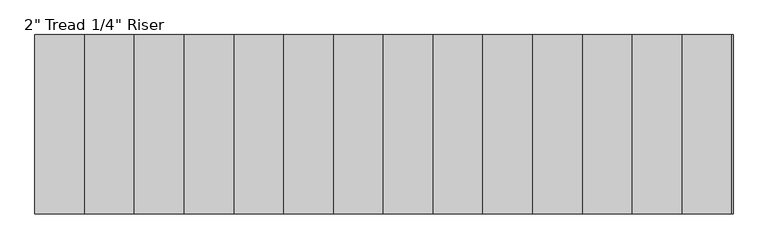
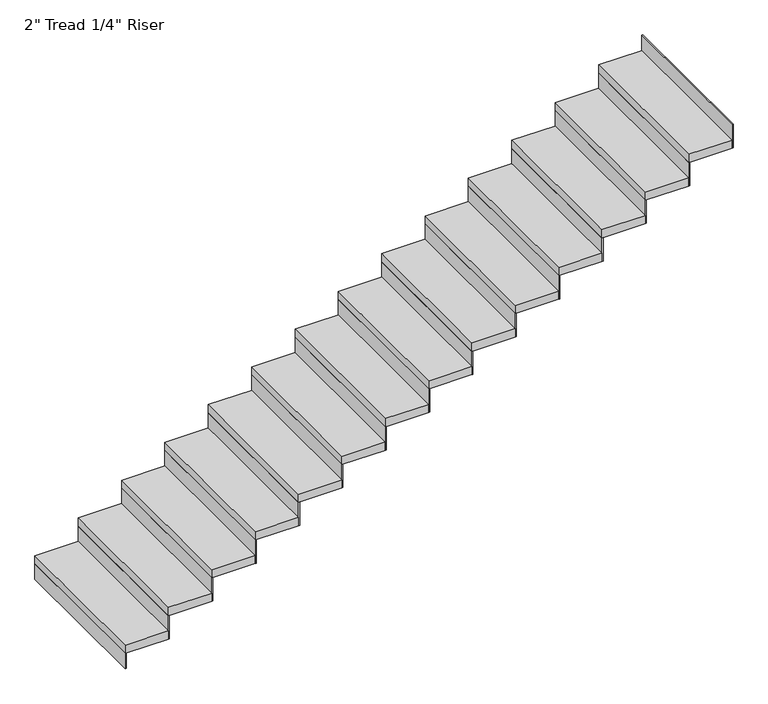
"""IFC4 building model written with IfcOpenShell, lengths in millimetres: stair flight geometry."""

from ifc_helpers import new_model, si_unit, frame, origin, origin_with_axes, place, context, project, spatial, polyline, outline, extrude, source, transform, mapped, element, save


def stair_flight_84b26165(model_context):
    return source(origin(), model_context, "Body", "SweptSolid", [
        extrude(outline(polyline([(108742.7003162, 32332.2812523), (108736.3503162, 32332.2812523), (108736.3503162, 33246.6812523), (108742.7003162, 33246.6812523), (108742.7003162, 32332.2812523)])), origin_with_axes(), (0.0, 0.0, 1.0), 94.3428571),
        extrude(outline(polyline([(108990.3503162, 33246.6812523), (108990.3503162, 32332.2812523), (108736.3503162, 32332.2812523), (108736.3503162, 33246.6812523), (108990.3503162, 33246.6812523)])), frame((0.0, 0.0, 94.3428571), z_axis=(0.0, 0.0, 1.0), x_axis=(1.0, 0.0, 0.0)), (0.0, 0.0, 1.0), 50.8),
        extrude(outline(polyline([(108996.7003162, 32332.2812523), (108990.3503162, 32332.2812523), (108990.3503162, 33246.6812523), (108996.7003162, 33246.6812523), (108996.7003162, 32332.2812523)])), frame((0.0, 0.0, 94.3428571), z_axis=(0.0, 0.0, 1.0), x_axis=(1.0, 0.0, 0.0)), (0.0, 0.0, 1.0), 145.1428571),
        extrude(outline(polyline([(109244.3503162, 33246.6812523), (109244.3503162, 32332.2812523), (108990.3503162, 32332.2812523), (108990.3503162, 33246.6812523), (109244.3503162, 33246.6812523)])), frame((0.0, 0.0, 239.4857143), z_axis=(0.0, 0.0, 1.0), x_axis=(1.0, 0.0, 0.0)), (0.0, 0.0, 1.0), 50.8),
        extrude(outline(polyline([(109250.7003162, 32332.2812523), (109244.3503162, 32332.2812523), (109244.3503162, 33246.6812523), (109250.7003162, 33246.6812523), (109250.7003162, 32332.2812523)])), frame((0.0, 0.0, 239.4857143), z_axis=(0.0, 0.0, 1.0), x_axis=(1.0, 0.0, 0.0)), (0.0, 0.0, 1.0), 145.1428571),
        extrude(outline(polyline([(109498.3503162, 33246.6812523), (109498.3503162, 32332.2812523), (109244.3503162, 32332.2812523), (109244.3503162, 33246.6812523), (109498.3503162, 33246.6812523)])), frame((0.0, 0.0, 384.6285714), z_axis=(0.0, 0.0, 1.0), x_axis=(1.0, 0.0, 0.0)), (0.0, 0.0, 1.0), 50.8),
        extrude(outline(polyline([(109504.7003162, 32332.2812523), (109498.3503162, 32332.2812523), (109498.3503162, 33246.6812523), (109504.7003162, 33246.6812523), (109504.7003162, 32332.2812523)])), frame((0.0, 0.0, 384.6285714), z_axis=(0.0, 0.0, 1.0), x_axis=(1.0, 0.0, 0.0)), (0.0, 0.0, 1.0), 145.1428571),
        extrude(outline(polyline([(109752.3503162, 33246.6812523), (109752.3503162, 32332.2812523), (109498.3503162, 32332.2812523), (109498.3503162, 33246.6812523), (109752.3503162, 33246.6812523)])), frame((0.0, 0.0, 529.7714286), z_axis=(0.0, 0.0, 1.0), x_axis=(1.0, 0.0, 0.0)), (0.0, 0.0, 1.0), 50.8),
        extrude(outline(polyline([(109758.7003162, 32332.2812523), (109752.3503162, 32332.2812523), (109752.3503162, 33246.6812523), (109758.7003162, 33246.6812523), (109758.7003162, 32332.2812523)])), frame((0.0, 0.0, 529.7714286), z_axis=(0.0, 0.0, 1.0), x_axis=(1.0, 0.0, 0.0)), (0.0, 0.0, 1.0), 145.1428571),
        extrude(outline(polyline([(110006.3503162, 33246.6812523), (110006.3503162, 32332.2812523), (109752.3503162, 32332.2812523), (109752.3503162, 33246.6812523), (110006.3503162, 33246.6812523)])), frame((0.0, 0.0, 674.9142857), z_axis=(0.0, 0.0, 1.0), x_axis=(1.0, 0.0, 0.0)), (0.0, 0.0, 1.0), 50.8),
        extrude(outline(polyline([(110012.7003162, 32332.2812523), (110006.3503162, 32332.2812523), (110006.3503162, 33246.6812523), (110012.7003162, 33246.6812523), (110012.7003162, 32332.2812523)])), frame((0.0, 0.0, 674.9142857), z_axis=(0.0, 0.0, 1.0), x_axis=(1.0, 0.0, 0.0)), (0.0, 0.0, 1.0), 145.1428571),
        extrude(outline(polyline([(110260.3503162, 33246.6812523), (110260.3503162, 32332.2812523), (110006.3503162, 32332.2812523), (110006.3503162, 33246.6812523), (110260.3503162, 33246.6812523)])), frame((0.0, 0.0, 820.0571429), z_axis=(0.0, 0.0, 1.0), x_axis=(1.0, 0.0, 0.0)), (0.0, 0.0, 1.0), 50.8),
        extrude(outline(polyline([(110266.7003162, 32332.2812523), (110260.3503162, 32332.2812523), (110260.3503162, 33246.6812523), (110266.7003162, 33246.6812523), (110266.7003162, 32332.2812523)])), frame((0.0, 0.0, 820.0571429), z_axis=(0.0, 0.0, 1.0), x_axis=(1.0, 0.0, 0.0)), (0.0, 0.0, 1.0), 145.1428571),
        extrude(outline(polyline([(110514.3503162, 33246.6812523), (110514.3503162, 32332.2812523), (110260.3503162, 32332.2812523), (110260.3503162, 33246.6812523), (110514.3503162, 33246.6812523)])), frame((0.0, 0.0, 965.2), z_axis=(0.0, 0.0, 1.0), x_axis=(1.0, 0.0, 0.0)), (0.0, 0.0, 1.0), 50.8),
        extrude(outline(polyline([(110520.7003162, 32332.2812523), (110514.3503162, 32332.2812523), (110514.3503162, 33246.6812523), (110520.7003162, 33246.6812523), (110520.7003162, 32332.2812523)])), frame((0.0, 0.0, 965.2), z_axis=(0.0, 0.0, 1.0), x_axis=(1.0, 0.0, 0.0)), (0.0, 0.0, 1.0), 145.1428571),
        extrude(outline(polyline([(110768.3503162, 33246.6812523), (110768.3503162, 32332.2812523), (110514.3503162, 32332.2812523), (110514.3503162, 33246.6812523), (110768.3503162, 33246.6812523)])), frame((0.0, 0.0, 1110.3428571), z_axis=(0.0, 0.0, 1.0), x_axis=(1.0, 0.0, 0.0)), (0.0, 0.0, 1.0), 50.8),
        extrude(outline(polyline([(110774.7003162, 32332.2812523), (110768.3503162, 32332.2812523), (110768.3503162, 33246.6812523), (110774.7003162, 33246.6812523), (110774.7003162, 32332.2812523)])), frame((0.0, 0.0, 1110.3428571), z_axis=(0.0, 0.0, 1.0), x_axis=(1.0, 0.0, 0.0)), (0.0, 0.0, 1.0), 145.1428571),
        extrude(outline(polyline([(111022.3503162, 33246.6812523), (111022.3503162, 32332.2812523), (110768.3503162, 32332.2812523), (110768.3503162, 33246.6812523), (111022.3503162, 33246.6812523)])), frame((0.0, 0.0, 1255.4857143), z_axis=(0.0, 0.0, 1.0), x_axis=(1.0, 0.0, 0.0)), (0.0, 0.0, 1.0), 50.8),
        extrude(outline(polyline([(111028.7003162, 32332.2812523), (111022.3503162, 32332.2812523), (111022.3503162, 33246.6812523), (111028.7003162, 33246.6812523), (111028.7003162, 32332.2812523)])), frame((0.0, 0.0, 1255.4857143), z_axis=(0.0, 0.0, 1.0), x_axis=(1.0, 0.0, 0.0)), (0.0, 0.0, 1.0), 145.1428571),
        extrude(outline(polyline([(111276.3503162, 33246.6812523), (111276.3503162, 32332.2812523), (111022.3503162, 32332.2812523), (111022.3503162, 33246.6812523), (111276.3503162, 33246.6812523)])), frame((0.0, 0.0, 1400.6285714), z_axis=(0.0, 0.0, 1.0), x_axis=(1.0, 0.0, 0.0)), (0.0, 0.0, 1.0), 50.8),
        extrude(outline(polyline([(111282.7003162, 32332.2812523), (111276.3503162, 32332.2812523), (111276.3503162, 33246.6812523), (111282.7003162, 33246.6812523), (111282.7003162, 32332.2812523)])), frame((0.0, 0.0, 1400.6285714), z_axis=(0.0, 0.0, 1.0), x_axis=(1.0, 0.0, 0.0)), (0.0, 0.0, 1.0), 145.1428571),
        extrude(outline(polyline([(111530.3503162, 33246.6812523), (111530.3503162, 32332.2812523), (111276.3503162, 32332.2812523), (111276.3503162, 33246.6812523), (111530.3503162, 33246.6812523)])), frame((0.0, 0.0, 1545.7714286), z_axis=(0.0, 0.0, 1.0), x_axis=(1.0, 0.0, 0.0)), (0.0, 0.0, 1.0), 50.8),
        extrude(outline(polyline([(111536.7003162, 32332.2812523), (111530.3503162, 32332.2812523), (111530.3503162, 33246.6812523), (111536.7003162, 33246.6812523), (111536.7003162, 32332.2812523)])), frame((0.0, 0.0, 1545.7714286), z_axis=(0.0, 0.0, 1.0), x_axis=(1.0, 0.0, 0.0)), (0.0, 0.0, 1.0), 145.1428571),
        extrude(outline(polyline([(111784.3503162, 33246.6812523), (111784.3503162, 32332.2812523), (111530.3503162, 32332.2812523), (111530.3503162, 33246.6812523), (111784.3503162, 33246.6812523)])), frame((0.0, 0.0, 1690.9142857), z_axis=(0.0, 0.0, 1.0), x_axis=(1.0, 0.0, 0.0)), (0.0, 0.0, 1.0), 50.8),
        extrude(outline(polyline([(111790.7003162, 32332.2812523), (111784.3503162, 32332.2812523), (111784.3503162, 33246.6812523), (111790.7003162, 33246.6812523), (111790.7003162, 32332.2812523)])), frame((0.0, 0.0, 1690.9142857), z_axis=(0.0, 0.0, 1.0), x_axis=(1.0, 0.0, 0.0)), (0.0, 0.0, 1.0), 145.1428571),
        extrude(outline(polyline([(112038.3503162, 33246.6812523), (112038.3503162, 32332.2812523), (111784.3503162, 32332.2812523), (111784.3503162, 33246.6812523), (112038.3503162, 33246.6812523)])), frame((0.0, 0.0, 1836.0571429), z_axis=(0.0, 0.0, 1.0), x_axis=(1.0, 0.0, 0.0)), (0.0, 0.0, 1.0), 50.8),
        extrude(outline(polyline([(112044.7003162, 32332.2812523), (112038.3503162, 32332.2812523), (112038.3503162, 33246.6812523), (112044.7003162, 33246.6812523), (112044.7003162, 32332.2812523)])), frame((0.0, 0.0, 1836.0571429), z_axis=(0.0, 0.0, 1.0), x_axis=(1.0, 0.0, 0.0)), (0.0, 0.0, 1.0), 145.1428571),
        extrude(outline(polyline([(112298.7003162, 32332.2812523), (112292.3503162, 32332.2812523), (112292.3503162, 33246.6812523), (112298.7003162, 33246.6812523), (112298.7003162, 32332.2812523)])), frame((0.0, 0.0, 1981.2), z_axis=(0.0, 0.0, 1.0), x_axis=(1.0, 0.0, 0.0)), (0.0, 0.0, 1.0), 145.1428571),
        extrude(outline(polyline([(112292.3503162, 33246.6812523), (112292.3503162, 32332.2812523), (112038.3503162, 32332.2812523), (112038.3503162, 33246.6812523), (112292.3503162, 33246.6812523)])), frame((0.0, 0.0, 1981.2), z_axis=(0.0, 0.0, 1.0), x_axis=(1.0, 0.0, 0.0)), (0.0, 0.0, 1.0), 50.8),
    ])


if __name__ == "__main__":
    model = new_model("IFC4")
    model_context = context("Model", 3, world=origin())
    ifc_project = project(units=[si_unit("LENGTHUNIT", "METRE", prefix="MILLI")], contexts=[model_context])
    site = spatial("IfcSite", under=ifc_project)
    building = spatial("IfcBuilding", under=site)
    placement = place(None, origin())
    stair_flight_shape = stair_flight_84b26165(model_context)
    element("IfcStairFlight", 1, ObjectType="2\" Tread 1/4\" Riser", at=placement, inside=building, context=model_context, shape_type="MappedRepresentation", body=[
        mapped(stair_flight_shape, transform((0.0, 0.0, 0.0), x_axis=(1.0, 0.0, 0.0), y_axis=(0.0, 1.0, 0.0), z_axis=(0.0, 0.0, 1.0))),
    ])
    save(model, "model.ifc")
